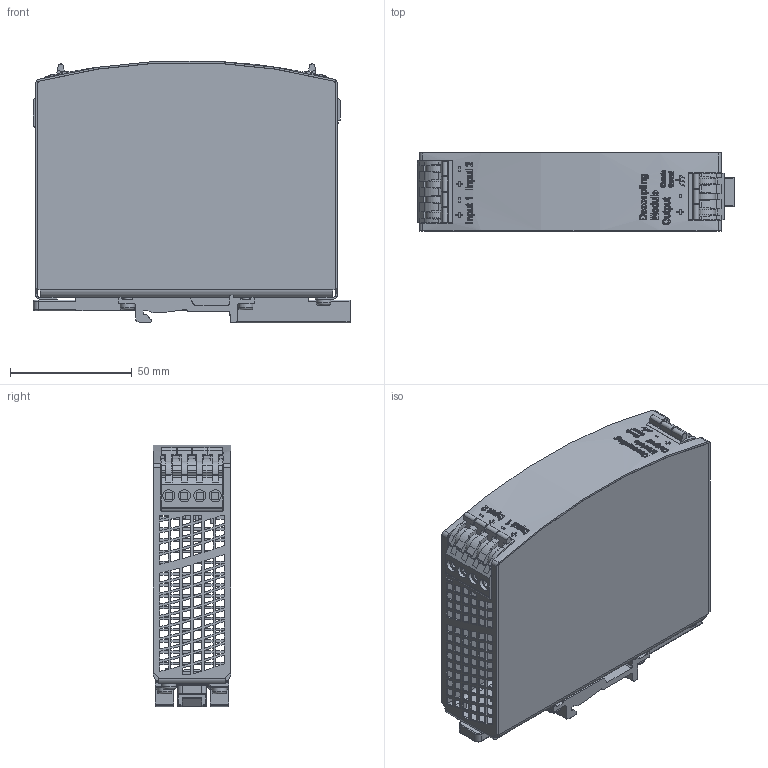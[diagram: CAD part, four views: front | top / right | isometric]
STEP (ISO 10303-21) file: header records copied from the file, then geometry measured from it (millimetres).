
FILE_DESCRIPTION((''),'2;1');
FILE_NAME('C:\Users\rahns\Desktop\Sylvia Info´s\Dateien für Vertrieb\YR2\md3_yr2_diode.stp','2012-06-12T14:33:19',('rahns'),(''),'Autodesk Inventor 2009','Autodesk Inventor 2009','');
FILE_SCHEMA(('AUTOMOTIVE_DESIGN { 1 0 10303 214 1 1 1 1 }'));
Length unit declared in the file: millimetre
Products named in the file (8): 361; HOUSING BODY 361; HOUSING COVER 361; SLIDER; T HOLDER; SCREW 3x6; TERMINAL 4P R6,35; TERMINAL 3P R6,35
Assembly tree (13 placements, depth 2):
  361
    HOUSING BODY 361
    HOUSING COVER 361
    SLIDER
    T HOLDER  x2
    SCREW 3x6  x6
    TERMINAL 4P R6,35
    TERMINAL 3P R6,35
Bounding box: 130.65 x 32 x 107.49 mm (x, y, z)
Volume: 71608.9 mm3; surface area: 87104.9 mm2
Topology: 13 solids, 13 shells, 2055 faces, 5772 edges, 3846 vertices
Faces by surface type: plane 1434, bspline 353, cylinder 244, torus 10, sphere 8, cone 6
Full cylindrical faces by diameter (mm): 1.25 x7, 3 x6, 3.1 x4, 5 x7, 6 x6
Entity records: 184131 total; most frequent: CARTESIAN_POINT 135762, ORIENTED_EDGE 10818, DIRECTION 8072, EDGE_CURVE 5409, VECTOR 3924, LINE 3924, VERTEX_POINT 3610, EDGE_LOOP 2385
